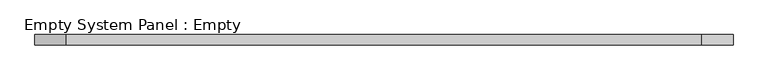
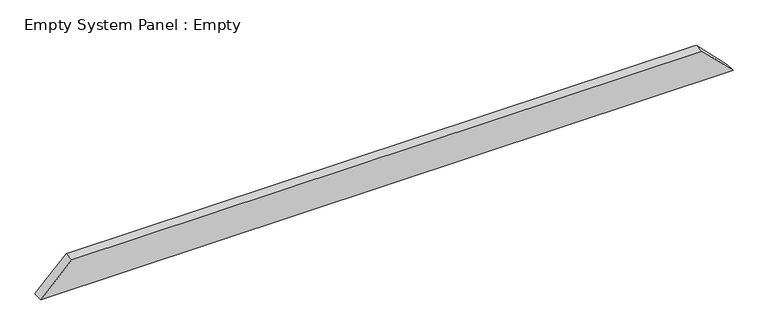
"""IFC4 building model written with IfcOpenShell, lengths in millimetres: plate geometry, Empty System Panel : Empty."""

from ifc_helpers import new_model, si_unit, frame, origin, place, context, project, spatial, polyline, outline, extrude, source, transform, mapped, element, save


def empty_system_panel_empty_725cd480(model_context):
    return source(origin(), model_context, "Body", "SweptSolid", [
        extrude(outline(polyline([(0.0, -3410.6085006), (0.0, 3410.6085006), (310.0, 3104.0382312), (310.0, -3104.0382312), (0.0, -3410.6085006)])), frame((0.0, -50.0, 0.0), z_axis=(0.0, 1.0, 0.0), x_axis=(0.0, 0.0, 1.0)), (0.0, 0.0, 1.0), 100.0),
    ])


if __name__ == "__main__":
    model = new_model("IFC4")
    model_context = context("Model", 3, world=origin())
    ifc_project = project(units=[si_unit("LENGTHUNIT", "METRE", prefix="MILLI")], contexts=[model_context])
    site = spatial("IfcSite", under=ifc_project)
    building = spatial("IfcBuilding", under=site)
    placement = place(None, origin())
    empty_system_panel_empty_shape = empty_system_panel_empty_725cd480(model_context)
    element("IfcPlate", 1, ObjectType="Empty System Panel : Empty", at=placement, inside=building, context=model_context, shape_type="MappedRepresentation", body=[
        mapped(empty_system_panel_empty_shape, transform((0.0, 0.0, 0.0), x_axis=(1.0, 0.0, 0.0), y_axis=(0.0, 1.0, 0.0), z_axis=(0.0, 0.0, 1.0))),
    ])
    save(model, "model.ifc")
